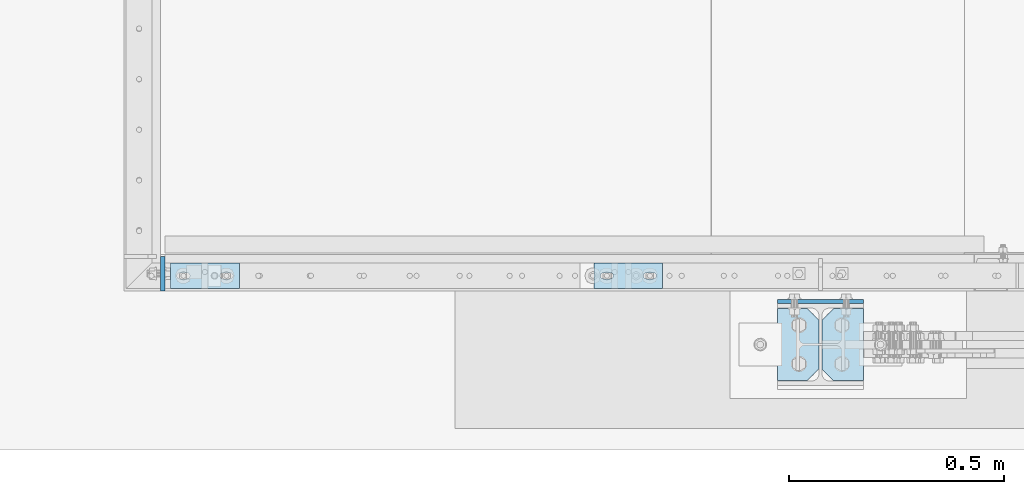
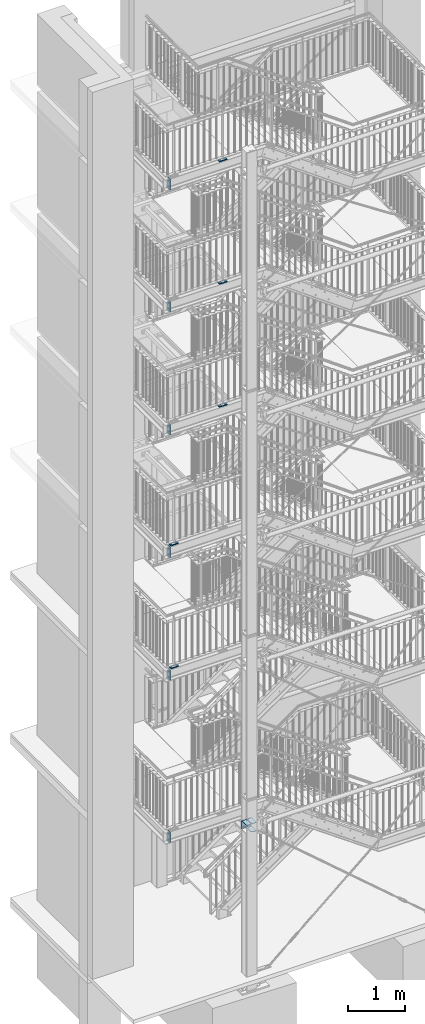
# One storey, part 150 of 831: 15 plates, 48 openings.
"""IFC2X3 building model written with IfcOpenShell, lengths in millimetres."""

from ifc_helpers import new_model, entity, si_unit, converted_unit, point, frame, frame_2d, origin, origin_with_axes, origin_2d_with_axis, place, context, project, spatial, polyline, circle_curve, line_curve, trimmed, segment, composite_curve, circle, outline, extrude, material, layer, layer_set, element, save


model = new_model("IFC2X3")

# Units and contexts
model_context = context("Model", 3, precision=1e-09, world=origin_with_axes())
ifc_project = project(units=[si_unit("LENGTHUNIT", "METRE", prefix="MILLI"), si_unit("AREAUNIT", "SQUARE_METRE"), si_unit("VOLUMEUNIT", "CUBIC_METRE"), converted_unit("PLANEANGLEUNIT", "DEGREE", entity("IfcPlaneAngleMeasure", 0.01745329), si_unit("PLANEANGLEUNIT", "RADIAN"), dimensions=[0, 0, 0, 0, 0, 0, 0])], contexts=[model_context])

# Site, building, storey
site_placement = place(None, origin_with_axes())
site = spatial("IfcSite", under=ifc_project, at=site_placement, Name="Site", CompositionType="ELEMENT")
building_placement = place(site_placement, origin_with_axes())
building = spatial("IfcBuilding", under=site, at=building_placement, Name="Struktur 1", CompositionType="ELEMENT")
storey_placement = place(building_placement, origin_with_axes())
storey = spatial("IfcBuildingStorey", under=building, at=storey_placement, Name="Default Storey", CompositionType="ELEMENT", Elevation=0.0)

# Plate, openings
ifc_material = material(Name="S235JR")
ifc_layer_1 = layer(ifc_material, 20.0)
ifc_layer_set_1 = layer_set([ifc_layer_1], Name="S235JR")
plate_1_placement = place(None, frame((4329.791688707, 4496.736971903, 12579.0), z_axis=(0.0, 0.0, 1.0), x_axis=(1.0, 0.0, 0.0)))
plate_1 = element("IfcPlate", 1, at=plate_1_placement, inside=storey, material=ifc_layer_set_1, Name="Plate#512", ObjectType="Plate#512", context=model_context, shape_type="SweptSolid", body=[
    extrude(outline(polyline([(0.0, 0.0), (160.0, 0.0), (160.0, 60.0), (0.0, 60.0), (0.0, 0.0)])), origin_with_axes(), (0.0, 0.0, 1.0), 20.0),
])
opening_1_placement = place(plate_1_placement, frame((38.0, 37.001, 20.5), z_axis=(0.0, 0.0, 1.0), x_axis=(-1.0, 0.0, 0.0)))
element("IfcOpeningElement", 2, at=opening_1_placement, cuts=plate_1, ObjectType="Opening", context=model_context, shape_type="SweptSolid", body=[
    extrude(outline(composite_curve([segment(trimmed(line_curve((0.0, 0.0), (1.0, 0.0), 16.0), [point((0.0, 0.0))], [point((16.0, 0.0))], True, "CARTESIAN"), True, "CONTINUOUS"), segment(trimmed(circle_curve(frame_2d((16.0, 7.001), x_axis=(1.0, 0.0)), 7.001), [point((16.0, 0.0))], [point((16.0, 14.002))], True, "CARTESIAN"), True, "CONTINUOUS"), segment(trimmed(line_curve((16.0, 14.002), (-1.0, 0.0), 16.0), [point((16.0, 14.002))], [point((0.0, 14.002))], True, "CARTESIAN"), True, "CONTINUOUS"), segment(trimmed(circle_curve(frame_2d((0.0, 7.001), x_axis=(1.0, 0.0)), 7.001), [point((0.0, 14.002))], [point((0.0, 0.0))], True, "CARTESIAN"), True, "CONTINUOUS")], self_intersect=False)), origin(), (0.0, 0.0, -1.0), 21.0),
])
opening_2_placement = place(plate_1_placement, frame((138.0, 37.001, 20.5), z_axis=(0.0, 0.0, 1.0), x_axis=(-1.0, 0.0, 0.0)))
element("IfcOpeningElement", 3, at=opening_2_placement, cuts=plate_1, ObjectType="Opening", context=model_context, shape_type="SweptSolid", body=[
    extrude(outline(composite_curve([segment(trimmed(line_curve((0.0, 0.0), (1.0, 0.0), 16.0), [point((0.0, 0.0))], [point((16.0, 0.0))], True, "CARTESIAN"), True, "CONTINUOUS"), segment(trimmed(circle_curve(frame_2d((16.0, 7.001), x_axis=(1.0, 0.0)), 7.001), [point((16.0, 0.0))], [point((16.0, 14.002))], True, "CARTESIAN"), True, "CONTINUOUS"), segment(trimmed(line_curve((16.0, 14.002), (-1.0, 0.0), 16.0), [point((16.0, 14.002))], [point((0.0, 14.002))], True, "CARTESIAN"), True, "CONTINUOUS"), segment(trimmed(circle_curve(frame_2d((0.0, 7.001), x_axis=(1.0, 0.0)), 7.001), [point((0.0, 14.002))], [point((0.0, 0.0))], True, "CARTESIAN"), True, "CONTINUOUS")], self_intersect=False)), origin(), (0.0, 0.0, -1.0), 21.0),
])

plate_2_placement = place(None, frame((4329.791688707, 4496.736971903, 15214.0), z_axis=(0.0, 0.0, 1.0), x_axis=(1.0, 0.0, 0.0)))
plate_2 = element("IfcPlate", 4, at=plate_2_placement, inside=storey, material=ifc_layer_set_1, Name="Plate#512", ObjectType="Plate#512", context=model_context, shape_type="SweptSolid", body=[
    extrude(outline(polyline([(0.0, 0.0), (160.0, 0.0), (160.0, 60.0), (0.0, 60.0), (0.0, 0.0)])), origin_with_axes(), (0.0, 0.0, 1.0), 20.0),
])
opening_3_placement = place(plate_2_placement, frame((38.0, 37.001, 20.5), z_axis=(0.0, 0.0, 1.0), x_axis=(-1.0, 0.0, 0.0)))
element("IfcOpeningElement", 5, at=opening_3_placement, cuts=plate_2, ObjectType="Opening", context=model_context, shape_type="SweptSolid", body=[
    extrude(outline(composite_curve([segment(trimmed(line_curve((0.0, 0.0), (1.0, 0.0), 16.0), [point((0.0, 0.0))], [point((16.0, 0.0))], True, "CARTESIAN"), True, "CONTINUOUS"), segment(trimmed(circle_curve(frame_2d((16.0, 7.001), x_axis=(1.0, 0.0)), 7.001), [point((16.0, 0.0))], [point((16.0, 14.002))], True, "CARTESIAN"), True, "CONTINUOUS"), segment(trimmed(line_curve((16.0, 14.002), (-1.0, 0.0), 16.0), [point((16.0, 14.002))], [point((0.0, 14.002))], True, "CARTESIAN"), True, "CONTINUOUS"), segment(trimmed(circle_curve(frame_2d((0.0, 7.001), x_axis=(1.0, 0.0)), 7.001), [point((0.0, 14.002))], [point((0.0, 0.0))], True, "CARTESIAN"), True, "CONTINUOUS")], self_intersect=False)), origin(), (0.0, 0.0, -1.0), 21.0),
])
opening_4_placement = place(plate_2_placement, frame((138.0, 37.001, 20.5), z_axis=(0.0, 0.0, 1.0), x_axis=(-1.0, 0.0, 0.0)))
element("IfcOpeningElement", 6, at=opening_4_placement, cuts=plate_2, ObjectType="Opening", context=model_context, shape_type="SweptSolid", body=[
    extrude(outline(composite_curve([segment(trimmed(line_curve((0.0, 0.0), (1.0, 0.0), 16.0), [point((0.0, 0.0))], [point((16.0, 0.0))], True, "CARTESIAN"), True, "CONTINUOUS"), segment(trimmed(circle_curve(frame_2d((16.0, 7.001), x_axis=(1.0, 0.0)), 7.001), [point((16.0, 0.0))], [point((16.0, 14.002))], True, "CARTESIAN"), True, "CONTINUOUS"), segment(trimmed(line_curve((16.0, 14.002), (-1.0, 0.0), 16.0), [point((16.0, 14.002))], [point((0.0, 14.002))], True, "CARTESIAN"), True, "CONTINUOUS"), segment(trimmed(circle_curve(frame_2d((0.0, 7.001), x_axis=(1.0, 0.0)), 7.001), [point((0.0, 14.002))], [point((0.0, 0.0))], True, "CARTESIAN"), True, "CONTINUOUS")], self_intersect=False)), origin(), (0.0, 0.0, -1.0), 21.0),
])

plate_3_placement = place(None, frame((4329.791688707, 4496.736971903, 17834.0), z_axis=(0.0, 0.0, 1.0), x_axis=(1.0, 0.0, 0.0)))
plate_3 = element("IfcPlate", 7, at=plate_3_placement, inside=storey, material=ifc_layer_set_1, Name="Plate#512", ObjectType="Plate#512", context=model_context, shape_type="SweptSolid", body=[
    extrude(outline(polyline([(0.0, 0.0), (160.0, 0.0), (160.0, 60.0), (0.0, 60.0), (0.0, 0.0)])), origin_with_axes(), (0.0, 0.0, 1.0), 20.0),
])
opening_5_placement = place(plate_3_placement, frame((38.0, 37.001, 20.5), z_axis=(0.0, 0.0, 1.0), x_axis=(-1.0, 0.0, 0.0)))
element("IfcOpeningElement", 8, at=opening_5_placement, cuts=plate_3, ObjectType="Opening", context=model_context, shape_type="SweptSolid", body=[
    extrude(outline(composite_curve([segment(trimmed(line_curve((0.0, 0.0), (1.0, 0.0), 16.0), [point((0.0, 0.0))], [point((16.0, 0.0))], True, "CARTESIAN"), True, "CONTINUOUS"), segment(trimmed(circle_curve(frame_2d((16.0, 7.001), x_axis=(1.0, 0.0)), 7.001), [point((16.0, 0.0))], [point((16.0, 14.002))], True, "CARTESIAN"), True, "CONTINUOUS"), segment(trimmed(line_curve((16.0, 14.002), (-1.0, 0.0), 16.0), [point((16.0, 14.002))], [point((0.0, 14.002))], True, "CARTESIAN"), True, "CONTINUOUS"), segment(trimmed(circle_curve(frame_2d((0.0, 7.001), x_axis=(1.0, 0.0)), 7.001), [point((0.0, 14.002))], [point((0.0, 0.0))], True, "CARTESIAN"), True, "CONTINUOUS")], self_intersect=False)), origin(), (0.0, 0.0, -1.0), 21.0),
])
opening_6_placement = place(plate_3_placement, frame((138.0, 37.001, 20.5), z_axis=(0.0, 0.0, 1.0), x_axis=(-1.0, 0.0, 0.0)))
element("IfcOpeningElement", 9, at=opening_6_placement, cuts=plate_3, ObjectType="Opening", context=model_context, shape_type="SweptSolid", body=[
    extrude(outline(composite_curve([segment(trimmed(line_curve((0.0, 0.0), (1.0, 0.0), 16.0), [point((0.0, 0.0))], [point((16.0, 0.0))], True, "CARTESIAN"), True, "CONTINUOUS"), segment(trimmed(circle_curve(frame_2d((16.0, 7.001), x_axis=(1.0, 0.0)), 7.001), [point((16.0, 0.0))], [point((16.0, 14.002))], True, "CARTESIAN"), True, "CONTINUOUS"), segment(trimmed(line_curve((16.0, 14.002), (-1.0, 0.0), 16.0), [point((16.0, 14.002))], [point((0.0, 14.002))], True, "CARTESIAN"), True, "CONTINUOUS"), segment(trimmed(circle_curve(frame_2d((0.0, 7.001), x_axis=(1.0, 0.0)), 7.001), [point((0.0, 14.002))], [point((0.0, 0.0))], True, "CARTESIAN"), True, "CONTINUOUS")], self_intersect=False)), origin(), (0.0, 0.0, -1.0), 21.0),
])

ifc_layer_2 = layer(ifc_material, 10.0)
ifc_layer_set_2 = layer_set([ifc_layer_2], Name="S235JR")
plate_4_placement = place(None, frame((4856.713402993, 4471.736971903, 3512.0), z_axis=(0.0, -1.0, 0.0), x_axis=(0.0, 0.0, -1.0)))
plate_4 = element("IfcPlate", 10, at=plate_4_placement, inside=storey, material=ifc_layer_set_2, Name="Endplate", ObjectType="Endplate", context=model_context, shape_type="SweptSolid", body=[
    extrude(outline(polyline([(-90.0, -100.0), (90.0, -100.0), (90.0, 100.0), (-90.0, 100.0), (-90.0, -100.0)])), origin_with_axes(), (0.0, 0.0, 1.0), 10.0),
])
opening_7_placement = place(plate_4_placement, frame((-67.0, -21.25, 10.5), z_axis=(0.0, 0.0, -1.0), x_axis=(1.0, 0.0, 0.0)))
element("IfcOpeningElement", 11, at=opening_7_placement, cuts=plate_4, ObjectType="Opening", context=model_context, shape_type="SweptSolid", body=[
    extrude(circle(Radius=6.001, at=origin_2d_with_axis()), origin(), (0.0, 0.0, 1.0), 11.0),
])
opening_8_placement = place(plate_4_placement, frame((67.0, -21.25, 10.5), z_axis=(0.0, 0.0, -1.0), x_axis=(1.0, 0.0, 0.0)))
element("IfcOpeningElement", 12, at=opening_8_placement, cuts=plate_4, ObjectType="Opening", context=model_context, shape_type="SweptSolid", body=[
    extrude(circle(Radius=6.001, at=origin_2d_with_axis()), origin(), (0.0, 0.0, 1.0), 11.0),
])
opening_9_placement = place(plate_4_placement, frame((67.0, 21.25, 10.5), z_axis=(0.0, 0.0, -1.0), x_axis=(1.0, 0.0, 0.0)))
element("IfcOpeningElement", 13, at=opening_9_placement, cuts=plate_4, ObjectType="Opening", context=model_context, shape_type="SweptSolid", body=[
    extrude(circle(Radius=6.001, at=origin_2d_with_axis()), origin(), (0.0, 0.0, 1.0), 11.0),
])
opening_10_placement = place(plate_4_placement, frame((-67.0, 21.25, 10.5), z_axis=(0.0, 0.0, -1.0), x_axis=(1.0, 0.0, 0.0)))
element("IfcOpeningElement", 14, at=opening_10_placement, cuts=plate_4, ObjectType="Opening", context=model_context, shape_type="SweptSolid", body=[
    extrude(circle(Radius=6.001, at=origin_2d_with_axis()), origin(), (0.0, 0.0, 1.0), 11.0),
])
opening_11_placement = place(plate_4_placement, frame((-45.0, -60.0, 10.5), z_axis=(0.0, 0.0, -1.0), x_axis=(0.0, -1.0, 0.0)))
element("IfcOpeningElement", 15, at=opening_11_placement, cuts=plate_4, ObjectType="Opening", context=model_context, shape_type="SweptSolid", body=[
    extrude(circle(Radius=9.001, at=origin_2d_with_axis()), origin(), (0.0, 0.0, 1.0), 11.0),
])
opening_12_placement = place(plate_4_placement, frame((45.0, 60.0, 10.5), z_axis=(0.0, 0.0, -1.0), x_axis=(0.0, 1.0, 0.0)))
element("IfcOpeningElement", 16, at=opening_12_placement, cuts=plate_4, ObjectType="Opening", context=model_context, shape_type="SweptSolid", body=[
    extrude(circle(Radius=9.001, at=origin_2d_with_axis()), origin(), (0.0, 0.0, 1.0), 11.0),
])
opening_13_placement = place(plate_4_placement, frame((-45.0, 60.0, 10.5), z_axis=(0.0, 0.0, -1.0), x_axis=(0.0, 1.0, 0.0)))
element("IfcOpeningElement", 17, at=opening_13_placement, cuts=plate_4, ObjectType="Opening", context=model_context, shape_type="SweptSolid", body=[
    extrude(circle(Radius=9.001, at=origin_2d_with_axis()), origin(), (0.0, 0.0, 1.0), 11.0),
])
opening_14_placement = place(plate_4_placement, frame((45.0, -60.0, 10.5), z_axis=(0.0, 0.0, -1.0), x_axis=(0.0, -1.0, 0.0)))
element("IfcOpeningElement", 18, at=opening_14_placement, cuts=plate_4, ObjectType="Opening", context=model_context, shape_type="SweptSolid", body=[
    extrude(circle(Radius=9.001, at=origin_2d_with_axis()), origin(), (0.0, 0.0, 1.0), 11.0),
])

plate_5_placement = place(None, frame((4956.713402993, 4450.236971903, 3597.0), z_axis=(0.0, 0.0, 1.0), x_axis=(-1.0, 0.0, 0.0)))
plate_5 = element("IfcPlate", 19, at=plate_5_placement, inside=storey, material=ifc_layer_set_2, Name="Stiffener#1", ObjectType="Stiffener#1", context=model_context, shape_type="SweptSolid", body=[
    extrude(outline(polyline([(0.0, 0.0), (96.75, 0.0), (96.75, 167.0), (0.0, 167.0), (0.0, 0.0)])), origin_with_axes(), (0.0, 0.0, 1.0), 10.0),
])
opening_15_placement = place(plate_5_placement, frame((0.0, 0.0, -0.01), z_axis=(0.0, 0.0, 1.0), x_axis=(1.0, 0.0, 0.0)))
element("IfcOpeningElement", 20, at=opening_15_placement, cuts=plate_5, ObjectType="Opening", context=model_context, shape_type="SweptSolid", body=[
    extrude(outline(polyline([(96.75, 167.0), (69.75, 167.0), (96.75, 140.0), (96.75, 167.0)])), origin(), (0.0, 0.0, 1.0), 10.02),
])
opening_16_placement = place(plate_5_placement, frame((0.0, 0.0, -0.01), z_axis=(0.0, 0.0, 1.0), x_axis=(1.0, 0.0, 0.0)))
element("IfcOpeningElement", 21, at=opening_16_placement, cuts=plate_5, ObjectType="Opening", context=model_context, shape_type="SweptSolid", body=[
    extrude(outline(polyline([(96.75, 0.0), (96.75, 27.0), (69.75, 0.0), (96.75, 0.0)])), origin(), (0.0, 0.0, 1.0), 10.02),
])

plate_6_placement = place(None, frame((4853.463402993, 4450.236971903, 3597.0), z_axis=(0.0, 0.0, 1.0), x_axis=(-1.0, 0.0, 0.0)))
plate_6 = element("IfcPlate", 22, at=plate_6_placement, inside=storey, material=ifc_layer_set_2, Name="Stiffener#2", ObjectType="Stiffener#2", context=model_context, shape_type="SweptSolid", body=[
    extrude(outline(polyline([(0.0, 0.0), (96.75, 0.0), (96.75, 167.0), (0.0, 167.0), (0.0, 0.0)])), origin_with_axes(), (0.0, 0.0, 1.0), 10.0),
])
opening_17_placement = place(plate_6_placement, frame((0.0, 0.0, -0.01), z_axis=(0.0, 0.0, 1.0), x_axis=(1.0, 0.0, 0.0)))
element("IfcOpeningElement", 23, at=opening_17_placement, cuts=plate_6, ObjectType="Opening", context=model_context, shape_type="SweptSolid", body=[
    extrude(outline(polyline([(0.0, 167.0), (0.0, 140.0), (27.0, 167.0), (0.0, 167.0)])), origin(), (0.0, 0.0, 1.0), 10.02),
])
opening_18_placement = place(plate_6_placement, frame((0.0, 0.0, -0.01), z_axis=(0.0, 0.0, 1.0), x_axis=(1.0, 0.0, 0.0)))
element("IfcOpeningElement", 24, at=opening_18_placement, cuts=plate_6, ObjectType="Opening", context=model_context, shape_type="SweptSolid", body=[
    extrude(outline(polyline([(0.0, 0.0), (27.0, 0.0), (0.0, 27.0), (0.0, 0.0)])), origin(), (0.0, 0.0, 1.0), 10.02),
])

plate_7_placement = place(None, frame((4859.963402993, 4450.236971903, 3427.0), z_axis=(0.0, 0.0, -1.0), x_axis=(1.0, 0.0, 0.0)))
plate_7 = element("IfcPlate", 25, at=plate_7_placement, inside=storey, material=ifc_layer_set_2, Name="Stiffener#3", ObjectType="Stiffener#3", context=model_context, shape_type="SweptSolid", body=[
    extrude(outline(polyline([(0.0, 0.0), (96.75, 0.0), (96.75, 167.0), (0.0, 167.0), (0.0, 0.0)])), origin_with_axes(), (0.0, 0.0, 1.0), 10.0),
])
opening_19_placement = place(plate_7_placement, frame((0.0, 0.0, -0.01), z_axis=(0.0, 0.0, 1.0), x_axis=(1.0, 0.0, 0.0)))
element("IfcOpeningElement", 26, at=opening_19_placement, cuts=plate_7, ObjectType="Opening", context=model_context, shape_type="SweptSolid", body=[
    extrude(outline(polyline([(0.0, 167.0), (0.0, 140.0), (27.0, 167.0), (0.0, 167.0)])), origin(), (0.0, 0.0, 1.0), 10.02),
])
opening_20_placement = place(plate_7_placement, frame((0.0, 0.0, -0.01), z_axis=(0.0, 0.0, 1.0), x_axis=(1.0, 0.0, 0.0)))
element("IfcOpeningElement", 27, at=opening_20_placement, cuts=plate_7, ObjectType="Opening", context=model_context, shape_type="SweptSolid", body=[
    extrude(outline(polyline([(0.0, 0.0), (27.0, 0.0), (0.0, 27.0), (0.0, 0.0)])), origin(), (0.0, 0.0, 1.0), 10.02),
])

plate_8_placement = place(None, frame((3321.713402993, 4571.736971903, 3842.0), z_axis=(1.0, 0.0, 0.0), x_axis=(0.0, -1.0, 0.0)))
plate_8 = element("IfcPlate", 28, at=plate_8_placement, inside=storey, material=ifc_layer_set_2, Name="Endplate", ObjectType="Endplate", context=model_context, shape_type="SweptSolid", body=[
    extrude(outline(polyline([(0.0, 0.0), (80.0, 0.0), (80.0, 230.0), (0.0, 230.0), (0.0, 0.0)])), origin_with_axes(), (0.0, 0.0, 1.0), 10.0),
])
opening_21_placement = place(plate_8_placement, frame((17.5, 209.0, -0.5), z_axis=(0.0, 0.0, 1.0), x_axis=(0.0, -1.0, 0.0)))
element("IfcOpeningElement", 29, at=opening_21_placement, cuts=plate_8, ObjectType="Opening", context=model_context, shape_type="SweptSolid", body=[
    extrude(circle(Radius=6.001, at=origin_2d_with_axis()), origin(), (0.0, 0.0, 1.0), 11.0),
])
opening_22_placement = place(plate_8_placement, frame((17.5, 21.0, -0.5), z_axis=(0.0, 0.0, 1.0), x_axis=(0.0, -1.0, 0.0)))
element("IfcOpeningElement", 30, at=opening_22_placement, cuts=plate_8, ObjectType="Opening", context=model_context, shape_type="SweptSolid", body=[
    extrude(circle(Radius=6.001, at=origin_2d_with_axis()), origin(), (0.0, 0.0, 1.0), 11.0),
])
opening_23_placement = place(plate_8_placement, frame((40.0, 115.0, -0.5), z_axis=(0.0, 0.0, 1.0), x_axis=(0.0, -1.0, 0.0)))
element("IfcOpeningElement", 31, at=opening_23_placement, cuts=plate_8, ObjectType="Opening", context=model_context, shape_type="SweptSolid", body=[
    extrude(circle(Radius=9.001, at=frame_2d((60.0, 0.0), x_axis=(1.0, 0.0))), origin(), (0.0, 0.0, 1.0), 11.0),
])
opening_24_placement = place(plate_8_placement, frame((40.0, 115.0, -0.5), z_axis=(0.0, 0.0, 1.0), x_axis=(0.0, -1.0, 0.0)))
element("IfcOpeningElement", 32, at=opening_24_placement, cuts=plate_8, ObjectType="Opening", context=model_context, shape_type="SweptSolid", body=[
    extrude(circle(Radius=9.001, at=frame_2d((-60.0, 0.0), x_axis=(1.0, 0.0))), origin(), (0.0, 0.0, 1.0), 11.0),
])

plate_9_placement = place(None, frame((3321.713402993, 4571.736971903, 7315.0), z_axis=(1.0, 0.0, 0.0), x_axis=(0.0, -1.0, 0.0)))
plate_9 = element("IfcPlate", 33, at=plate_9_placement, inside=storey, material=ifc_layer_set_2, Name="Endplate", ObjectType="Endplate", context=model_context, shape_type="SweptSolid", body=[
    extrude(outline(polyline([(0.0, 0.0), (80.0, 0.0), (80.0, 230.0), (0.0, 230.0), (0.0, 0.0)])), origin_with_axes(), (0.0, 0.0, 1.0), 10.0),
])
opening_25_placement = place(plate_9_placement, frame((17.5, 209.0, -0.5), z_axis=(0.0, 0.0, 1.0), x_axis=(0.0, -1.0, 0.0)))
element("IfcOpeningElement", 34, at=opening_25_placement, cuts=plate_9, ObjectType="Opening", context=model_context, shape_type="SweptSolid", body=[
    extrude(circle(Radius=6.001, at=origin_2d_with_axis()), origin(), (0.0, 0.0, 1.0), 11.0),
])
opening_26_placement = place(plate_9_placement, frame((17.5, 21.0, -0.5), z_axis=(0.0, 0.0, 1.0), x_axis=(0.0, -1.0, 0.0)))
element("IfcOpeningElement", 35, at=opening_26_placement, cuts=plate_9, ObjectType="Opening", context=model_context, shape_type="SweptSolid", body=[
    extrude(circle(Radius=6.001, at=origin_2d_with_axis()), origin(), (0.0, 0.0, 1.0), 11.0),
])
opening_27_placement = place(plate_9_placement, frame((40.0, 115.0, -0.5), z_axis=(0.0, 0.0, 1.0), x_axis=(0.0, -1.0, 0.0)))
element("IfcOpeningElement", 36, at=opening_27_placement, cuts=plate_9, ObjectType="Opening", context=model_context, shape_type="SweptSolid", body=[
    extrude(circle(Radius=9.001, at=frame_2d((60.0, 0.0), x_axis=(1.0, 0.0))), origin(), (0.0, 0.0, 1.0), 11.0),
])
opening_28_placement = place(plate_9_placement, frame((40.0, 115.0, -0.5), z_axis=(0.0, 0.0, 1.0), x_axis=(0.0, -1.0, 0.0)))
element("IfcOpeningElement", 37, at=opening_28_placement, cuts=plate_9, ObjectType="Opening", context=model_context, shape_type="SweptSolid", body=[
    extrude(circle(Radius=9.001, at=frame_2d((-60.0, 0.0), x_axis=(1.0, 0.0))), origin(), (0.0, 0.0, 1.0), 11.0),
])

plate_10_placement = place(None, frame((3321.713402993, 4571.736971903, 9947.0), z_axis=(1.0, 0.0, 0.0), x_axis=(0.0, -1.0, 0.0)))
plate_10 = element("IfcPlate", 38, at=plate_10_placement, inside=storey, material=ifc_layer_set_2, Name="Endplate", ObjectType="Endplate", context=model_context, shape_type="SweptSolid", body=[
    extrude(outline(polyline([(0.0, 0.0), (80.0, 0.0), (80.0, 230.0), (0.0, 230.0), (0.0, 0.0)])), origin_with_axes(), (0.0, 0.0, 1.0), 10.0),
])
opening_29_placement = place(plate_10_placement, frame((17.5, 209.0, -0.5), z_axis=(0.0, 0.0, 1.0), x_axis=(0.0, -1.0, 0.0)))
element("IfcOpeningElement", 39, at=opening_29_placement, cuts=plate_10, ObjectType="Opening", context=model_context, shape_type="SweptSolid", body=[
    extrude(circle(Radius=6.001, at=origin_2d_with_axis()), origin(), (0.0, 0.0, 1.0), 11.0),
])
opening_30_placement = place(plate_10_placement, frame((17.5, 21.0, -0.5), z_axis=(0.0, 0.0, 1.0), x_axis=(0.0, -1.0, 0.0)))
element("IfcOpeningElement", 40, at=opening_30_placement, cuts=plate_10, ObjectType="Opening", context=model_context, shape_type="SweptSolid", body=[
    extrude(circle(Radius=6.001, at=origin_2d_with_axis()), origin(), (0.0, 0.0, 1.0), 11.0),
])
opening_31_placement = place(plate_10_placement, frame((40.0, 115.0, -0.5), z_axis=(0.0, 0.0, 1.0), x_axis=(0.0, -1.0, 0.0)))
element("IfcOpeningElement", 41, at=opening_31_placement, cuts=plate_10, ObjectType="Opening", context=model_context, shape_type="SweptSolid", body=[
    extrude(circle(Radius=9.001, at=frame_2d((60.0, 0.0), x_axis=(1.0, 0.0))), origin(), (0.0, 0.0, 1.0), 11.0),
])
opening_32_placement = place(plate_10_placement, frame((40.0, 115.0, -0.5), z_axis=(0.0, 0.0, 1.0), x_axis=(0.0, -1.0, 0.0)))
element("IfcOpeningElement", 42, at=opening_32_placement, cuts=plate_10, ObjectType="Opening", context=model_context, shape_type="SweptSolid", body=[
    extrude(circle(Radius=9.001, at=frame_2d((-60.0, 0.0), x_axis=(1.0, 0.0))), origin(), (0.0, 0.0, 1.0), 11.0),
])

plate_11_placement = place(None, frame((3321.713402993, 4571.736971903, 12574.0), z_axis=(1.0, 0.0, 0.0), x_axis=(0.0, -1.0, 0.0)))
plate_11 = element("IfcPlate", 43, at=plate_11_placement, inside=storey, material=ifc_layer_set_2, Name="Endplate", ObjectType="Endplate", context=model_context, shape_type="SweptSolid", body=[
    extrude(outline(polyline([(0.0, 0.0), (80.0, 0.0), (80.0, 230.0), (0.0, 230.0), (0.0, 0.0)])), origin_with_axes(), (0.0, 0.0, 1.0), 10.0),
])
opening_33_placement = place(plate_11_placement, frame((17.5, 209.0, -0.5), z_axis=(0.0, 0.0, 1.0), x_axis=(0.0, -1.0, 0.0)))
element("IfcOpeningElement", 44, at=opening_33_placement, cuts=plate_11, ObjectType="Opening", context=model_context, shape_type="SweptSolid", body=[
    extrude(circle(Radius=6.001, at=origin_2d_with_axis()), origin(), (0.0, 0.0, 1.0), 11.0),
])
opening_34_placement = place(plate_11_placement, frame((17.5, 21.0, -0.5), z_axis=(0.0, 0.0, 1.0), x_axis=(0.0, -1.0, 0.0)))
element("IfcOpeningElement", 45, at=opening_34_placement, cuts=plate_11, ObjectType="Opening", context=model_context, shape_type="SweptSolid", body=[
    extrude(circle(Radius=6.001, at=origin_2d_with_axis()), origin(), (0.0, 0.0, 1.0), 11.0),
])
opening_35_placement = place(plate_11_placement, frame((40.0, 115.0, -0.5), z_axis=(0.0, 0.0, 1.0), x_axis=(0.0, -1.0, 0.0)))
element("IfcOpeningElement", 46, at=opening_35_placement, cuts=plate_11, ObjectType="Opening", context=model_context, shape_type="SweptSolid", body=[
    extrude(circle(Radius=9.001, at=frame_2d((60.0, 0.0), x_axis=(1.0, 0.0))), origin(), (0.0, 0.0, 1.0), 11.0),
])
opening_36_placement = place(plate_11_placement, frame((40.0, 115.0, -0.5), z_axis=(0.0, 0.0, 1.0), x_axis=(0.0, -1.0, 0.0)))
element("IfcOpeningElement", 47, at=opening_36_placement, cuts=plate_11, ObjectType="Opening", context=model_context, shape_type="SweptSolid", body=[
    extrude(circle(Radius=9.001, at=frame_2d((-60.0, 0.0), x_axis=(1.0, 0.0))), origin(), (0.0, 0.0, 1.0), 11.0),
])

plate_12_placement = place(None, frame((3321.713402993, 4571.736971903, 15209.0), z_axis=(1.0, 0.0, 0.0), x_axis=(0.0, -1.0, 0.0)))
plate_12 = element("IfcPlate", 48, at=plate_12_placement, inside=storey, material=ifc_layer_set_2, Name="Endplate", ObjectType="Endplate", context=model_context, shape_type="SweptSolid", body=[
    extrude(outline(polyline([(0.0, 0.0), (80.0, 0.0), (80.0, 230.0), (0.0, 230.0), (0.0, 0.0)])), origin_with_axes(), (0.0, 0.0, 1.0), 10.0),
])
opening_37_placement = place(plate_12_placement, frame((17.5, 209.0, -0.5), z_axis=(0.0, 0.0, 1.0), x_axis=(0.0, -1.0, 0.0)))
element("IfcOpeningElement", 49, at=opening_37_placement, cuts=plate_12, ObjectType="Opening", context=model_context, shape_type="SweptSolid", body=[
    extrude(circle(Radius=6.001, at=origin_2d_with_axis()), origin(), (0.0, 0.0, 1.0), 11.0),
])
opening_38_placement = place(plate_12_placement, frame((17.5, 21.0, -0.5), z_axis=(0.0, 0.0, 1.0), x_axis=(0.0, -1.0, 0.0)))
element("IfcOpeningElement", 50, at=opening_38_placement, cuts=plate_12, ObjectType="Opening", context=model_context, shape_type="SweptSolid", body=[
    extrude(circle(Radius=6.001, at=origin_2d_with_axis()), origin(), (0.0, 0.0, 1.0), 11.0),
])
opening_39_placement = place(plate_12_placement, frame((40.0, 115.0, -0.5), z_axis=(0.0, 0.0, 1.0), x_axis=(0.0, -1.0, 0.0)))
element("IfcOpeningElement", 51, at=opening_39_placement, cuts=plate_12, ObjectType="Opening", context=model_context, shape_type="SweptSolid", body=[
    extrude(circle(Radius=9.001, at=frame_2d((60.0, 0.0), x_axis=(1.0, 0.0))), origin(), (0.0, 0.0, 1.0), 11.0),
])
opening_40_placement = place(plate_12_placement, frame((40.0, 115.0, -0.5), z_axis=(0.0, 0.0, 1.0), x_axis=(0.0, -1.0, 0.0)))
element("IfcOpeningElement", 52, at=opening_40_placement, cuts=plate_12, ObjectType="Opening", context=model_context, shape_type="SweptSolid", body=[
    extrude(circle(Radius=9.001, at=frame_2d((-60.0, 0.0), x_axis=(1.0, 0.0))), origin(), (0.0, 0.0, 1.0), 11.0),
])

plate_13_placement = place(None, frame((3344.79154585, 4496.736971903, 7320.0), z_axis=(0.0, 0.0, 1.0), x_axis=(1.0, 0.0, 0.0)))
plate_13 = element("IfcPlate", 53, at=plate_13_placement, inside=storey, material=ifc_layer_set_1, Name="Plate#513", ObjectType="Plate#513", context=model_context, shape_type="SweptSolid", body=[
    extrude(outline(polyline([(0.0, 0.0), (160.0, 0.0), (160.0, 60.0), (0.0, 60.0), (0.0, 0.0)])), origin_with_axes(), (0.0, 0.0, 1.0), 20.0),
])
opening_41_placement = place(plate_13_placement, frame((38.0, 37.001, 20.5), z_axis=(0.0, 0.0, 1.0), x_axis=(-1.0, 0.0, 0.0)))
element("IfcOpeningElement", 54, at=opening_41_placement, cuts=plate_13, ObjectType="Opening", context=model_context, shape_type="SweptSolid", body=[
    extrude(outline(composite_curve([segment(trimmed(line_curve((0.0, 0.0), (1.0, 0.0), 16.0), [point((0.0, 0.0))], [point((16.0, 0.0))], True, "CARTESIAN"), True, "CONTINUOUS"), segment(trimmed(circle_curve(frame_2d((16.0, 7.001), x_axis=(1.0, 0.0)), 7.001), [point((16.0, 0.0))], [point((16.0, 14.002))], True, "CARTESIAN"), True, "CONTINUOUS"), segment(trimmed(line_curve((16.0, 14.002), (-1.0, 0.0), 16.0), [point((16.0, 14.002))], [point((0.0, 14.002))], True, "CARTESIAN"), True, "CONTINUOUS"), segment(trimmed(circle_curve(frame_2d((0.0, 7.001), x_axis=(1.0, 0.0)), 7.001), [point((0.0, 14.002))], [point((0.0, 0.0))], True, "CARTESIAN"), True, "CONTINUOUS")], self_intersect=False)), origin(), (0.0, 0.0, -1.0), 21.0),
])
opening_42_placement = place(plate_13_placement, frame((138.0, 37.001, 20.5), z_axis=(0.0, 0.0, 1.0), x_axis=(-1.0, 0.0, 0.0)))
element("IfcOpeningElement", 55, at=opening_42_placement, cuts=plate_13, ObjectType="Opening", context=model_context, shape_type="SweptSolid", body=[
    extrude(outline(composite_curve([segment(trimmed(line_curve((0.0, 0.0), (1.0, 0.0), 16.0), [point((0.0, 0.0))], [point((16.0, 0.0))], True, "CARTESIAN"), True, "CONTINUOUS"), segment(trimmed(circle_curve(frame_2d((16.0, 7.001), x_axis=(1.0, 0.0)), 7.001), [point((16.0, 0.0))], [point((16.0, 14.002))], True, "CARTESIAN"), True, "CONTINUOUS"), segment(trimmed(line_curve((16.0, 14.002), (-1.0, 0.0), 16.0), [point((16.0, 14.002))], [point((0.0, 14.002))], True, "CARTESIAN"), True, "CONTINUOUS"), segment(trimmed(circle_curve(frame_2d((0.0, 7.001), x_axis=(1.0, 0.0)), 7.001), [point((0.0, 14.002))], [point((0.0, 0.0))], True, "CARTESIAN"), True, "CONTINUOUS")], self_intersect=False)), origin(), (0.0, 0.0, -1.0), 21.0),
])

plate_14_placement = place(None, frame((3344.79154585, 4496.736971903, 9952.0), z_axis=(0.0, 0.0, 1.0), x_axis=(1.0, 0.0, 0.0)))
plate_14 = element("IfcPlate", 56, at=plate_14_placement, inside=storey, material=ifc_layer_set_1, Name="Plate#513", ObjectType="Plate#513", context=model_context, shape_type="SweptSolid", body=[
    extrude(outline(polyline([(0.0, 0.0), (160.0, 0.0), (160.0, 60.0), (0.0, 60.0), (0.0, 0.0)])), origin_with_axes(), (0.0, 0.0, 1.0), 20.0),
])
opening_43_placement = place(plate_14_placement, frame((38.0, 37.001, 20.5), z_axis=(0.0, 0.0, 1.0), x_axis=(-1.0, 0.0, 0.0)))
element("IfcOpeningElement", 57, at=opening_43_placement, cuts=plate_14, ObjectType="Opening", context=model_context, shape_type="SweptSolid", body=[
    extrude(outline(composite_curve([segment(trimmed(line_curve((0.0, 0.0), (1.0, 0.0), 16.0), [point((0.0, 0.0))], [point((16.0, 0.0))], True, "CARTESIAN"), True, "CONTINUOUS"), segment(trimmed(circle_curve(frame_2d((16.0, 7.001), x_axis=(1.0, 0.0)), 7.001), [point((16.0, 0.0))], [point((16.0, 14.002))], True, "CARTESIAN"), True, "CONTINUOUS"), segment(trimmed(line_curve((16.0, 14.002), (-1.0, 0.0), 16.0), [point((16.0, 14.002))], [point((0.0, 14.002))], True, "CARTESIAN"), True, "CONTINUOUS"), segment(trimmed(circle_curve(frame_2d((0.0, 7.001), x_axis=(1.0, 0.0)), 7.001), [point((0.0, 14.002))], [point((0.0, 0.0))], True, "CARTESIAN"), True, "CONTINUOUS")], self_intersect=False)), origin(), (0.0, 0.0, -1.0), 21.0),
])
opening_44_placement = place(plate_14_placement, frame((138.0, 37.001, 20.5), z_axis=(0.0, 0.0, 1.0), x_axis=(-1.0, 0.0, 0.0)))
element("IfcOpeningElement", 58, at=opening_44_placement, cuts=plate_14, ObjectType="Opening", context=model_context, shape_type="SweptSolid", body=[
    extrude(outline(composite_curve([segment(trimmed(line_curve((0.0, 0.0), (1.0, 0.0), 16.0), [point((0.0, 0.0))], [point((16.0, 0.0))], True, "CARTESIAN"), True, "CONTINUOUS"), segment(trimmed(circle_curve(frame_2d((16.0, 7.001), x_axis=(1.0, 0.0)), 7.001), [point((16.0, 0.0))], [point((16.0, 14.002))], True, "CARTESIAN"), True, "CONTINUOUS"), segment(trimmed(line_curve((16.0, 14.002), (-1.0, 0.0), 16.0), [point((16.0, 14.002))], [point((0.0, 14.002))], True, "CARTESIAN"), True, "CONTINUOUS"), segment(trimmed(circle_curve(frame_2d((0.0, 7.001), x_axis=(1.0, 0.0)), 7.001), [point((0.0, 14.002))], [point((0.0, 0.0))], True, "CARTESIAN"), True, "CONTINUOUS")], self_intersect=False)), origin(), (0.0, 0.0, -1.0), 21.0),
])

plate_15_placement = place(None, frame((3321.713402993, 4571.736971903, 17828.999999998), z_axis=(1.0, 0.0, 0.0), x_axis=(0.0, -1.0, 0.0)))
plate_15 = element("IfcPlate", 59, at=plate_15_placement, inside=storey, material=ifc_layer_set_2, Name="Endplate", ObjectType="Endplate", context=model_context, shape_type="SweptSolid", body=[
    extrude(outline(polyline([(0.0, 0.0), (80.0, 0.0), (80.0, 230.0), (0.0, 230.0), (0.0, 0.0)])), origin_with_axes(), (0.0, 0.0, 1.0), 10.0),
])
opening_45_placement = place(plate_15_placement, frame((17.5, 209.0, -0.5), z_axis=(0.0, 0.0, 1.0), x_axis=(0.0, -1.0, 0.0)))
element("IfcOpeningElement", 60, at=opening_45_placement, cuts=plate_15, ObjectType="Opening", context=model_context, shape_type="SweptSolid", body=[
    extrude(circle(Radius=6.001, at=origin_2d_with_axis()), origin(), (0.0, 0.0, 1.0), 11.0),
])
opening_46_placement = place(plate_15_placement, frame((17.5, 21.0, -0.5), z_axis=(0.0, 0.0, 1.0), x_axis=(0.0, -1.0, 0.0)))
element("IfcOpeningElement", 61, at=opening_46_placement, cuts=plate_15, ObjectType="Opening", context=model_context, shape_type="SweptSolid", body=[
    extrude(circle(Radius=6.001, at=origin_2d_with_axis()), origin(), (0.0, 0.0, 1.0), 11.0),
])
opening_47_placement = place(plate_15_placement, frame((40.0, 115.0, -0.5), z_axis=(0.0, 0.0, 1.0), x_axis=(0.0, -1.0, 0.0)))
element("IfcOpeningElement", 62, at=opening_47_placement, cuts=plate_15, ObjectType="Opening", context=model_context, shape_type="SweptSolid", body=[
    extrude(circle(Radius=9.001, at=frame_2d((60.0, 0.0), x_axis=(1.0, 0.0))), origin(), (0.0, 0.0, 1.0), 11.0),
])
opening_48_placement = place(plate_15_placement, frame((40.0, 115.0, -0.5), z_axis=(0.0, 0.0, 1.0), x_axis=(0.0, -1.0, 0.0)))
element("IfcOpeningElement", 63, at=opening_48_placement, cuts=plate_15, ObjectType="Opening", context=model_context, shape_type="SweptSolid", body=[
    extrude(circle(Radius=9.001, at=frame_2d((-60.0, 0.0), x_axis=(1.0, 0.0))), origin(), (0.0, 0.0, 1.0), 11.0),
])

save(model, "model.ifc")
